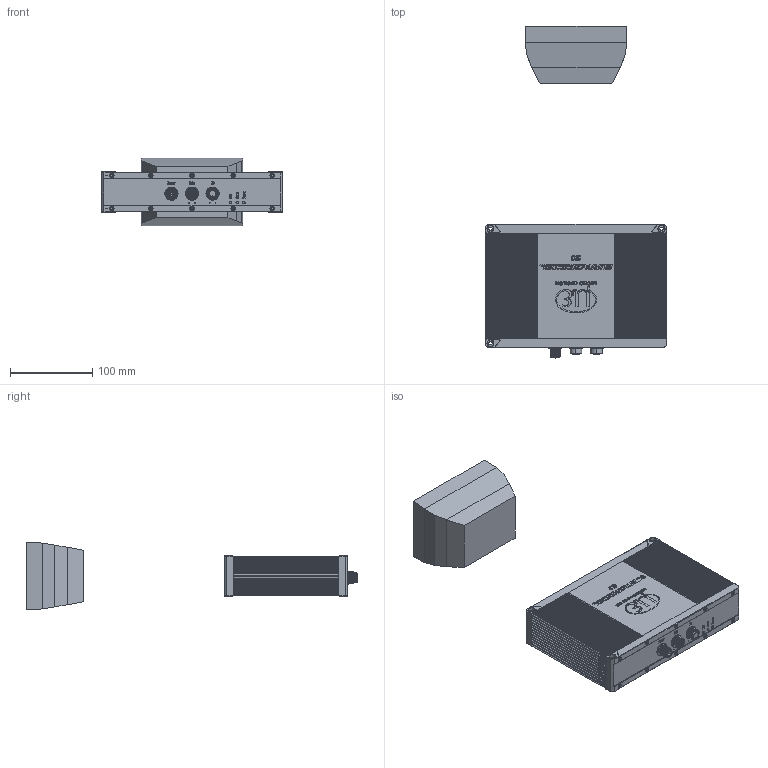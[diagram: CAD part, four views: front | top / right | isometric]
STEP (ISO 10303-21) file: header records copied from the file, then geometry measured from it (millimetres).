
FILE_DESCRIPTION((''),'2;1');
FILE_NAME('0000335333_ASM','2022-01-20T08:22:39',('pdmservice'),(''),'CREO PARAMETRIC BY PTC INC, 2018420','CREO PARAMETRIC BY PTC INC, 2018420','');
FILE_SCHEMA(('AUTOMOTIVE_DESIGN { 1 0 10303 214 1 1 1 1 }'));
Products named in the file (4): 0000335325_PRT; 0000303517_PRT; 0000343636_PRT; 0000335333_ASM
Assembly tree (3 placements, depth 2):
  0000335333_ASM
    0000335325_PRT
    0000303517_PRT
    0000343636_PRT
Bounding box: 220 x 403.5 x 82.5 mm (x, y, z)
Volume: 2110168 mm3; surface area: 242303.3 mm2
Topology: 5 solids, 9 shells, 4299 faces, 11357 edges, 7340 vertices
Faces by surface type: plane 1755, cylinder 1543, extrusion 727, torus 127, cone 102, bspline 35, sphere 10
Entity records: 230399 total; most frequent: CARTESIAN_POINT 69078, ORIENTED_EDGE 22710, DIRECTION 21136, PRESENTATION_STYLE_ASSIGNMENT 13964, STYLED_ITEM 11360, CURVE_STYLE 11355, EDGE_CURVE 11355, AXIS2_PLACEMENT_3D 7350
